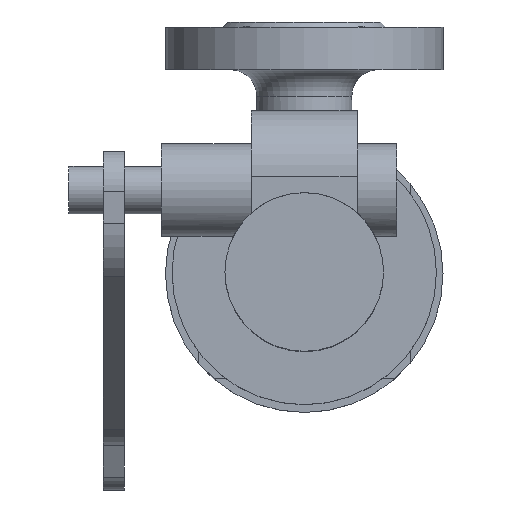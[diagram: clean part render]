
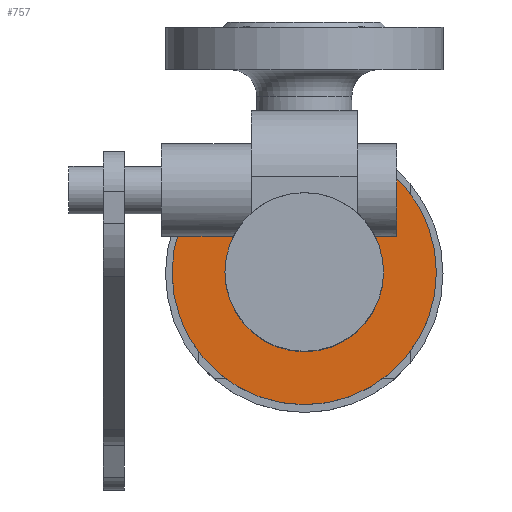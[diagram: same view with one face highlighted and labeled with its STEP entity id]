
A CAD part, top view. The second image highlights one B-rep face of the part: STEP entity #757.
In plain terms, the highlighted planar face has unit normal (0, 0, 1).
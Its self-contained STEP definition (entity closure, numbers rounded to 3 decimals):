
#757=ADVANCED_FACE('',(#1676,#1678),#1680,.T.);
#1676=FACE_BOUND('',#1677,.T.);
#1677=EDGE_LOOP('',(#2402));
#1678=FACE_BOUND('',#1679,.T.);
#1679=EDGE_LOOP('',(#2403));
#1680=PLANE('',#1681);
#1681=AXIS2_PLACEMENT_3D('',#1682,#1683,#1684);
#1682=CARTESIAN_POINT('',(0.,0.,271.));
#1683=DIRECTION('',(0.,0.,1.));
#1684=DIRECTION('',(0.,1.,0.));
#2402=ORIENTED_EDGE('',*,*,#2829,.F.);
#2403=ORIENTED_EDGE('',*,*,#2830,.T.);
#2829=EDGE_CURVE('',#3271,#3271,#3272,.T.);
#2830=EDGE_CURVE('',#3273,#3273,#3274,.T.);
#3271=VERTEX_POINT('',#5569);
#3272=CIRCLE('',#5570,50.);
#3273=VERTEX_POINT('',#5574);
#3274=CIRCLE('',#5575,30.);
#5569=CARTESIAN_POINT('',(0.,50.,271.));
#5570=AXIS2_PLACEMENT_3D('',#5571,#5572,#5573);
#5571=CARTESIAN_POINT('',(0.,0.,271.));
#5572=DIRECTION('',(0.,0.,-1.));
#5573=DIRECTION('',(0.,1.,0.));
#5574=CARTESIAN_POINT('',(0.,30.,271.));
#5575=AXIS2_PLACEMENT_3D('',#5576,#5577,#5578);
#5576=CARTESIAN_POINT('',(0.,0.,271.));
#5577=DIRECTION('',(0.,0.,-1.));
#5578=DIRECTION('',(0.,1.,0.));
